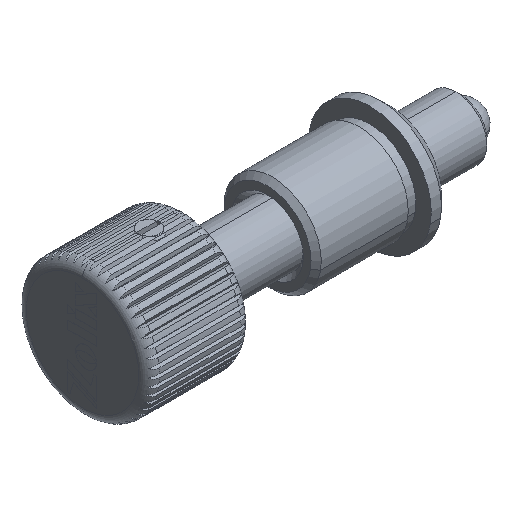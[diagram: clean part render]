
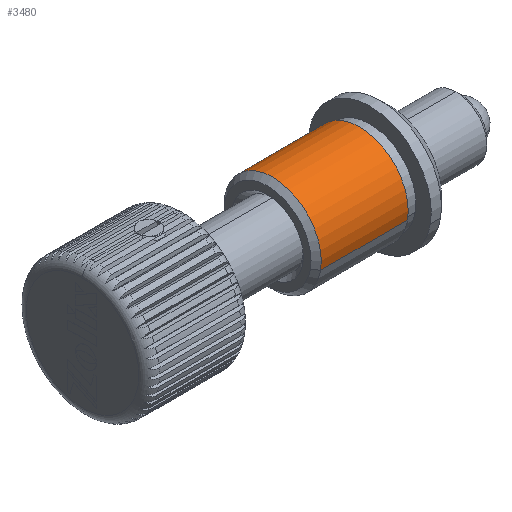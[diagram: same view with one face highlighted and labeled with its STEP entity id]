
A CAD part, isometric view. The second image highlights one B-rep face of the part: STEP entity #3480.
In plain terms, the highlighted cylindrical face has radius 4.75 mm (diameter 9.5 mm), a partial arc.
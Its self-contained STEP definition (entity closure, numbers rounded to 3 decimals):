
#6 = VERTEX_POINT ( 'NONE', #8120 ) ;
#102 = DIRECTION ( 'NONE',  ( 1., 0., 0. ) ) ;
#118 = EDGE_CURVE ( 'NONE', #2484, #6, #6000, .T. ) ;
#186 = CARTESIAN_POINT ( 'NONE',  ( 18.578, 0., 0. ) ) ;
#873 = EDGE_CURVE ( 'NONE', #6889, #1347, #2118, .T. ) ;
#1118 = DIRECTION ( 'NONE',  ( 1., 0., 0. ) ) ;
#1347 = VERTEX_POINT ( 'NONE', #1705 ) ;
#1694 = CIRCLE ( 'NONE', #5600, 4.75 ) ;
#1705 = CARTESIAN_POINT ( 'NONE',  ( 27.078, -4.684, -0.787 ) ) ;
#1728 = CARTESIAN_POINT ( 'NONE',  ( 31.794, -4.684, -0.787 ) ) ;
#1969 = CARTESIAN_POINT ( 'NONE',  ( 18.578, 4.684, 0.787 ) ) ;
#2118 = LINE ( 'NONE', #1728, #3479 ) ;
#2173 = ORIENTED_EDGE ( 'NONE', *, *, #3981, .F. ) ;
#2484 = VERTEX_POINT ( 'NONE', #1969 ) ;
#2658 = CIRCLE ( 'NONE', #3527, 4.75 ) ;
#3308 = ORIENTED_EDGE ( 'NONE', *, *, #118, .F. ) ;
#3479 = VECTOR ( 'NONE', #102, 1000. ) ;
#3480 = ADVANCED_FACE ( 'NONE', ( #7330 ), #5712, .T. ) ;
#3527 = AXIS2_PLACEMENT_3D ( 'NONE', #186, #5012, #9868 ) ;
#3576 = AXIS2_PLACEMENT_3D ( 'NONE', #3863, #4582, #4506 ) ;
#3710 = DIRECTION ( 'NONE',  ( 1., 0., 0. ) ) ;
#3863 = CARTESIAN_POINT ( 'NONE',  ( 31.794, 0., 0. ) ) ;
#3981 = EDGE_CURVE ( 'NONE', #6, #1347, #1694, .T. ) ;
#4506 = DIRECTION ( 'NONE',  ( 0., -0.986, -0.166 ) ) ;
#4582 = DIRECTION ( 'NONE',  ( 1., 0., 0. ) ) ;
#5012 = DIRECTION ( 'NONE',  ( 1., 0., 0. ) ) ;
#5600 = AXIS2_PLACEMENT_3D ( 'NONE', #8479, #3710, #6915 ) ;
#5712 = CYLINDRICAL_SURFACE ( 'NONE', #3576, 4.75 ) ;
#5805 = CARTESIAN_POINT ( 'NONE',  ( 31.794, 4.684, 0.787 ) ) ;
#5939 = EDGE_CURVE ( 'NONE', #2484, #6889, #2658, .T. ) ;
#6000 = LINE ( 'NONE', #5805, #7979 ) ;
#6889 = VERTEX_POINT ( 'NONE', #8860 ) ;
#6915 = DIRECTION ( 'NONE',  ( 0., -0.986, -0.166 ) ) ;
#7330 = FACE_OUTER_BOUND ( 'NONE', #8686, .T. ) ;
#7979 = VECTOR ( 'NONE', #1118, 1000. ) ;
#8120 = CARTESIAN_POINT ( 'NONE',  ( 27.078, 4.684, 0.787 ) ) ;
#8479 = CARTESIAN_POINT ( 'NONE',  ( 27.078, 0., 0. ) ) ;
#8686 = EDGE_LOOP ( 'NONE', ( #3308, #10049, #10073, #2173 ) ) ;
#8860 = CARTESIAN_POINT ( 'NONE',  ( 18.578, -4.684, -0.787 ) ) ;
#9868 = DIRECTION ( 'NONE',  ( 0., -0.986, -0.166 ) ) ;
#10049 = ORIENTED_EDGE ( 'NONE', *, *, #5939, .T. ) ;
#10073 = ORIENTED_EDGE ( 'NONE', *, *, #873, .T. ) ;
